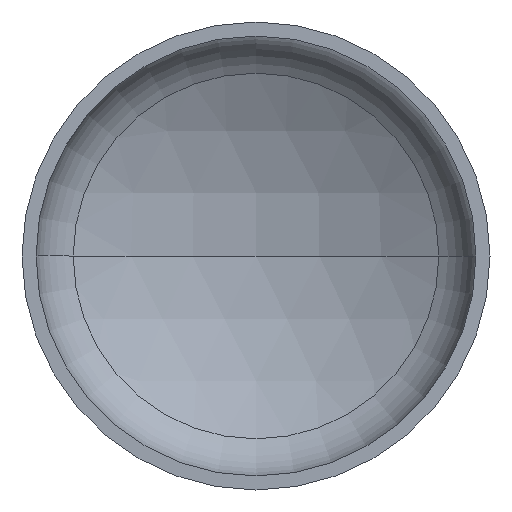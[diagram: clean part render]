
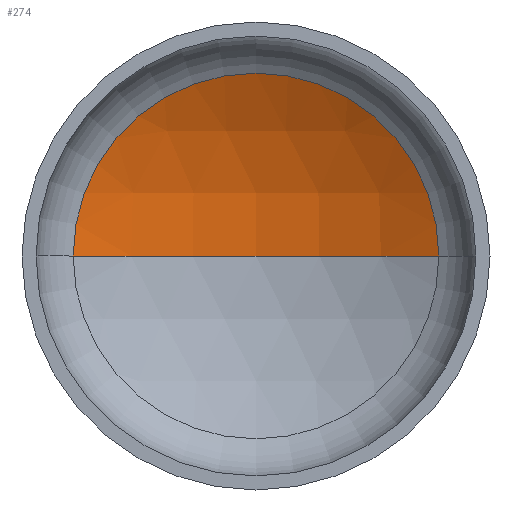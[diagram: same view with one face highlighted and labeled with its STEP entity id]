
A CAD part, front view. The second image highlights one B-rep face of the part: STEP entity #274.
In plain terms, the highlighted spherical face has radius 800 mm.
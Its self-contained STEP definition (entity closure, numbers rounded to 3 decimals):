
#1 = AXIS2_PLACEMENT_3D ( 'NONE', #314, #165, #339 ) ;
#14 = CARTESIAN_POINT ( 'NONE',  ( 0., 327.15, 0. ) ) ;
#20 = AXIS2_PLACEMENT_3D ( 'NONE', #75, #176, #218 ) ;
#23 = AXIS2_PLACEMENT_3D ( 'NONE', #161, #152, #153 ) ;
#28 = AXIS2_PLACEMENT_3D ( 'NONE', #267, #208, #264 ) ;
#34 = EDGE_LOOP ( 'NONE', ( #49, #142, #52 ) ) ;
#47 = CIRCLE ( 'NONE', #20, 800. ) ;
#49 = ORIENTED_EDGE ( 'NONE', *, *, #390, .F. ) ;
#52 = ORIENTED_EDGE ( 'NONE', *, *, #348, .T. ) ;
#75 = CARTESIAN_POINT ( 'NONE',  ( 0., -472.85, 0. ) ) ;
#121 = VERTEX_POINT ( 'NONE', #311 ) ;
#128 = VERTEX_POINT ( 'NONE', #309 ) ;
#142 = ORIENTED_EDGE ( 'NONE', *, *, #352, .T. ) ;
#152 = DIRECTION ( 'NONE',  ( 0., -1., 0. ) ) ;
#153 = DIRECTION ( 'NONE',  ( 1., 0., 0. ) ) ;
#161 = CARTESIAN_POINT ( 'NONE',  ( 0., 225.259, 0. ) ) ;
#164 = CIRCLE ( 'NONE', #1, 800. ) ;
#165 = DIRECTION ( 'NONE',  ( 0., 0., 1. ) ) ;
#176 = DIRECTION ( 'NONE',  ( 0., 0., -1. ) ) ;
#194 = VERTEX_POINT ( 'NONE', #14 ) ;
#208 = DIRECTION ( 'NONE',  ( 0., 0., -1. ) ) ;
#218 = DIRECTION ( 'NONE',  ( -1., 0., 0. ) ) ;
#264 = DIRECTION ( 'NONE',  ( -1., 0., 0. ) ) ;
#267 = CARTESIAN_POINT ( 'NONE',  ( 0., -472.85, 0. ) ) ;
#268 = FACE_OUTER_BOUND ( 'NONE', #34, .T. ) ;
#274 = ADVANCED_FACE ( 'NONE', ( #268 ), #400, .F. ) ;
#309 = CARTESIAN_POINT ( 'NONE',  ( 390.698, 225.259, 0. ) ) ;
#311 = CARTESIAN_POINT ( 'NONE',  ( -390.698, 225.259, 0. ) ) ;
#314 = CARTESIAN_POINT ( 'NONE',  ( 0., -472.85, 0. ) ) ;
#339 = DIRECTION ( 'NONE',  ( 1., 0., 0. ) ) ;
#348 = EDGE_CURVE ( 'NONE', #128, #121, #389, .T. ) ;
#352 = EDGE_CURVE ( 'NONE', #194, #128, #47, .T. ) ;
#389 = CIRCLE ( 'NONE', #23, 390.698 ) ;
#390 = EDGE_CURVE ( 'NONE', #194, #121, #164, .T. ) ;
#400 = SPHERICAL_SURFACE ( 'NONE', #28, 800. ) ;
